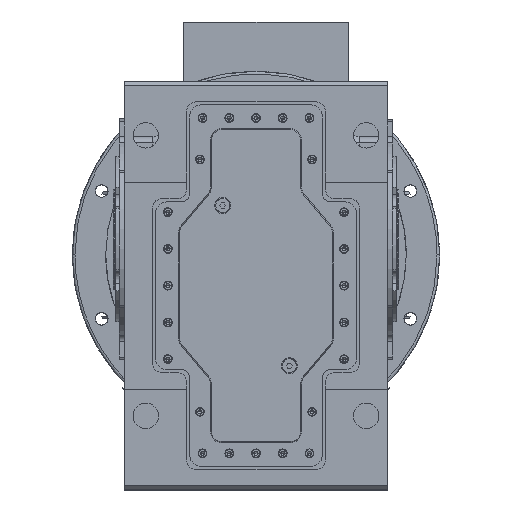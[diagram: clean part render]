
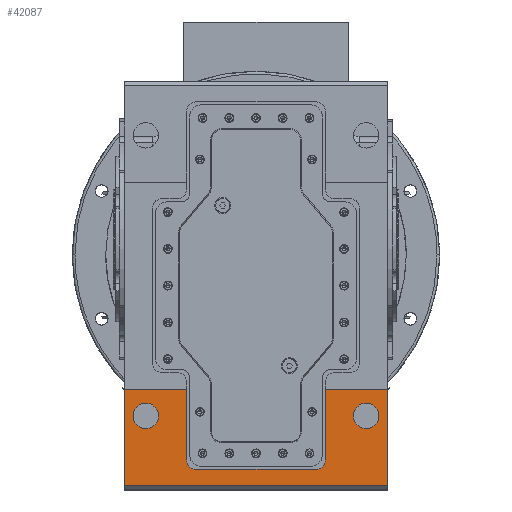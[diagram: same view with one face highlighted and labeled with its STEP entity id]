
A CAD part, top view. The second image highlights one B-rep face of the part: STEP entity #42087.
In plain terms, the highlighted planar face has unit normal (0, 0, 1).
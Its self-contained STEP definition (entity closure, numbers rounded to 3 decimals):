
#6207 = CARTESIAN_POINT ( 'NONE',  ( -200., -202.5, 687. ) ) ;
#6230 = PLANE ( 'NONE',  #15881 ) ;
#6234 = DIRECTION ( 'NONE',  ( 0., 0., 1. ) ) ;
#6236 = DIRECTION ( 'NONE',  ( 1., 0., 0. ) ) ;
#6562 = EDGE_LOOP ( 'NONE', ( #58204, #58196 ) ) ;
#6581 = EDGE_LOOP ( 'NONE', ( #58240, #58277 ) ) ;
#6672 = EDGE_LOOP ( 'NONE', ( #58254, #58187, #58305, #58239, #58245, #58227, #58211, #58214, #58260, #58191 ) ) ;
#8461 = FACE_BOUND ( 'NONE', #6581, .T. ) ;
#8471 = FACE_OUTER_BOUND ( 'NONE', #6672, .T. ) ;
#8513 = FACE_BOUND ( 'NONE', #6562, .T. ) ;
#15881 = AXIS2_PLACEMENT_3D ( 'NONE', #6207, #6234, #6236 ) ;
#19435 = CARTESIAN_POINT ( 'NONE',  ( 146., -242.5, 687. ) ) ;
#19439 = CARTESIAN_POINT ( 'NONE',  ( 184., -242.5, 687. ) ) ;
#19451 = CARTESIAN_POINT ( 'NONE',  ( -184., -242.5, 687. ) ) ;
#19477 = CARTESIAN_POINT ( 'NONE',  ( -146., -242.5, 687. ) ) ;
#22533 = CARTESIAN_POINT ( 'NONE',  ( 104., -202.5, 687. ) ) ;
#22566 = CARTESIAN_POINT ( 'NONE',  ( 104., -308.5, 687. ) ) ;
#22690 = CARTESIAN_POINT ( 'NONE',  ( 90., -322.5, 687. ) ) ;
#22762 = CARTESIAN_POINT ( 'NONE',  ( -104., -308.5, 687. ) ) ;
#22777 = CARTESIAN_POINT ( 'NONE',  ( -104., -202.5, 687. ) ) ;
#22822 = CARTESIAN_POINT ( 'NONE',  ( -90., -322.5, 687. ) ) ;
#27662 = AXIS2_PLACEMENT_3D ( 'NONE', #30590, #30605, #30607 ) ;
#27669 = AXIS2_PLACEMENT_3D ( 'NONE', #31965, #31907, #31959 ) ;
#28537 = CIRCLE ( 'NONE', #27662, 19. ) ;
#28596 = CIRCLE ( 'NONE', #27669, 19. ) ;
#30590 = CARTESIAN_POINT ( 'NONE',  ( -165., -242.5, 687. ) ) ;
#30605 = DIRECTION ( 'NONE',  ( 0., 0., -1. ) ) ;
#30607 = DIRECTION ( 'NONE',  ( 1., 0., 0. ) ) ;
#31907 = DIRECTION ( 'NONE',  ( 0., 0., -1. ) ) ;
#31959 = DIRECTION ( 'NONE',  ( 1., 0., 0. ) ) ;
#31965 = CARTESIAN_POINT ( 'NONE',  ( 165., -242.5, 687. ) ) ;
#42087 = ADVANCED_FACE ( 'NONE', ( #8471, #8513, #8461 ), #6230, .T. ) ;
#43046 = VERTEX_POINT ( 'NONE', #22566 ) ;
#44799 = VERTEX_POINT ( 'NONE', #22533 ) ;
#45875 = VERTEX_POINT ( 'NONE', #22690 ) ;
#45876 = VERTEX_POINT ( 'NONE', #22762 ) ;
#45913 = VERTEX_POINT ( 'NONE', #22777 ) ;
#45915 = VERTEX_POINT ( 'NONE', #22822 ) ;
#49197 = CARTESIAN_POINT ( 'NONE',  ( 197.5, -346.5, 687. ) ) ;
#49226 = CARTESIAN_POINT ( 'NONE',  ( -197.5, -346.5, 687. ) ) ;
#49254 = CARTESIAN_POINT ( 'NONE',  ( 197.5, -202.5, 687. ) ) ;
#49380 = CARTESIAN_POINT ( 'NONE',  ( -197.5, -202.5, 687. ) ) ;
#51356 = CIRCLE ( 'NONE', #89130, 14. ) ;
#51742 = LINE ( 'NONE', #77206, #51752 ) ;
#51750 = LINE ( 'NONE', #77223, #52042 ) ;
#51752 = VECTOR ( 'NONE', #77154, 1000. ) ;
#52042 = VECTOR ( 'NONE', #77308, 1000. ) ;
#58187 = ORIENTED_EDGE ( 'NONE', *, *, #111992, .T. ) ;
#58191 = ORIENTED_EDGE ( 'NONE', *, *, #112166, .T. ) ;
#58196 = ORIENTED_EDGE ( 'NONE', *, *, #112513, .T. ) ;
#58204 = ORIENTED_EDGE ( 'NONE', *, *, #87517, .T. ) ;
#58211 = ORIENTED_EDGE ( 'NONE', *, *, #113199, .T. ) ;
#58214 = ORIENTED_EDGE ( 'NONE', *, *, #112020, .T. ) ;
#58227 = ORIENTED_EDGE ( 'NONE', *, *, #113134, .F. ) ;
#58239 = ORIENTED_EDGE ( 'NONE', *, *, #113043, .F. ) ;
#58240 = ORIENTED_EDGE ( 'NONE', *, *, #87478, .T. ) ;
#58245 = ORIENTED_EDGE ( 'NONE', *, *, #112954, .T. ) ;
#58254 = ORIENTED_EDGE ( 'NONE', *, *, #112123, .T. ) ;
#58260 = ORIENTED_EDGE ( 'NONE', *, *, #112016, .T. ) ;
#58277 = ORIENTED_EDGE ( 'NONE', *, *, #112065, .T. ) ;
#58305 = ORIENTED_EDGE ( 'NONE', *, *, #112527, .T. ) ;
#72790 = VERTEX_POINT ( 'NONE', #19439 ) ;
#72792 = VERTEX_POINT ( 'NONE', #19435 ) ;
#72829 = VERTEX_POINT ( 'NONE', #19451 ) ;
#72889 = VERTEX_POINT ( 'NONE', #19477 ) ;
#75877 = CARTESIAN_POINT ( 'NONE',  ( -200., -322.5, 687. ) ) ;
#75885 = DIRECTION ( 'NONE',  ( -1., 0., 0. ) ) ;
#77154 = DIRECTION ( 'NONE',  ( 0., 1., 0. ) ) ;
#77206 = CARTESIAN_POINT ( 'NONE',  ( -104., -202.5, 687. ) ) ;
#77223 = CARTESIAN_POINT ( 'NONE',  ( 104., -202.5, 687. ) ) ;
#77244 = DIRECTION ( 'NONE',  ( 0., 0., -1. ) ) ;
#77277 = CARTESIAN_POINT ( 'NONE',  ( 90., -308.5, 687. ) ) ;
#77308 = DIRECTION ( 'NONE',  ( 0., -1., 0. ) ) ;
#77312 = DIRECTION ( 'NONE',  ( 1., 0., 0. ) ) ;
#77383 = CARTESIAN_POINT ( 'NONE',  ( -165., -242.5, 687. ) ) ;
#77395 = DIRECTION ( 'NONE',  ( 0., 0., -1. ) ) ;
#77414 = DIRECTION ( 'NONE',  ( 1., 0., 0. ) ) ;
#77584 = DIRECTION ( 'NONE',  ( 0., 0., -1. ) ) ;
#77588 = CARTESIAN_POINT ( 'NONE',  ( -90., -308.5, 687. ) ) ;
#77592 = DIRECTION ( 'NONE',  ( 1., 0., 0. ) ) ;
#77675 = LINE ( 'NONE', #80866, #77703 ) ;
#77703 = VECTOR ( 'NONE', #80883, 1000. ) ;
#77761 = CIRCLE ( 'NONE', #85779, 19. ) ;
#78201 = VECTOR ( 'NONE', #80226, 1000. ) ;
#78225 = LINE ( 'NONE', #80225, #78201 ) ;
#78291 = LINE ( 'NONE', #81572, #78309 ) ;
#78309 = VECTOR ( 'NONE', #81651, 1000. ) ;
#78408 = VECTOR ( 'NONE', #81812, 1000. ) ;
#78472 = LINE ( 'NONE', #81776, #78518 ) ;
#78478 = LINE ( 'NONE', #81843, #78408 ) ;
#78518 = VECTOR ( 'NONE', #81789, 1000. ) ;
#79485 = CIRCLE ( 'NONE', #89149, 19. ) ;
#79517 = CIRCLE ( 'NONE', #89369, 14. ) ;
#79587 = VECTOR ( 'NONE', #75885, 1000. ) ;
#79591 = LINE ( 'NONE', #75877, #79587 ) ;
#80225 = CARTESIAN_POINT ( 'NONE',  ( -200., -346.5, 687. ) ) ;
#80226 = DIRECTION ( 'NONE',  ( 1., 0., 0. ) ) ;
#80866 = CARTESIAN_POINT ( 'NONE',  ( -200., -202.5, 687. ) ) ;
#80880 = CARTESIAN_POINT ( 'NONE',  ( 165., -242.5, 687. ) ) ;
#80881 = DIRECTION ( 'NONE',  ( 0., 0., -1. ) ) ;
#80883 = DIRECTION ( 'NONE',  ( -1., 0., 0. ) ) ;
#80898 = DIRECTION ( 'NONE',  ( 1., 0., 0. ) ) ;
#81572 = CARTESIAN_POINT ( 'NONE',  ( -197.5, 229.5, 687. ) ) ;
#81651 = DIRECTION ( 'NONE',  ( 0., 1., 0. ) ) ;
#81776 = CARTESIAN_POINT ( 'NONE',  ( 197.5, 229.5, 687. ) ) ;
#81789 = DIRECTION ( 'NONE',  ( 0., -1., 0. ) ) ;
#81812 = DIRECTION ( 'NONE',  ( -1., 0., 0. ) ) ;
#81843 = CARTESIAN_POINT ( 'NONE',  ( -200., -202.5, 687. ) ) ;
#85779 = AXIS2_PLACEMENT_3D ( 'NONE', #80880, #80881, #80898 ) ;
#87478 = EDGE_CURVE ( 'NONE', #72889, #72829, #28537, .T. ) ;
#87517 = EDGE_CURVE ( 'NONE', #72790, #72792, #28596, .T. ) ;
#89130 = AXIS2_PLACEMENT_3D ( 'NONE', #77277, #77244, #77312 ) ;
#89149 = AXIS2_PLACEMENT_3D ( 'NONE', #77383, #77395, #77414 ) ;
#89369 = AXIS2_PLACEMENT_3D ( 'NONE', #77588, #77584, #77592 ) ;
#103200 = VERTEX_POINT ( 'NONE', #49254 ) ;
#103201 = VERTEX_POINT ( 'NONE', #49197 ) ;
#103207 = VERTEX_POINT ( 'NONE', #49226 ) ;
#103334 = VERTEX_POINT ( 'NONE', #49380 ) ;
#111992 = EDGE_CURVE ( 'NONE', #45876, #45913, #51742, .T. ) ;
#112016 = EDGE_CURVE ( 'NONE', #43046, #45875, #51356, .T. ) ;
#112020 = EDGE_CURVE ( 'NONE', #44799, #43046, #51750, .T. ) ;
#112065 = EDGE_CURVE ( 'NONE', #72829, #72889, #79485, .T. ) ;
#112123 = EDGE_CURVE ( 'NONE', #45915, #45876, #79517, .T. ) ;
#112166 = EDGE_CURVE ( 'NONE', #45875, #45915, #79591, .T. ) ;
#112513 = EDGE_CURVE ( 'NONE', #72792, #72790, #77761, .T. ) ;
#112527 = EDGE_CURVE ( 'NONE', #45913, #103334, #77675, .T. ) ;
#112954 = EDGE_CURVE ( 'NONE', #103207, #103201, #78225, .T. ) ;
#113043 = EDGE_CURVE ( 'NONE', #103207, #103334, #78291, .T. ) ;
#113134 = EDGE_CURVE ( 'NONE', #103200, #103201, #78472, .T. ) ;
#113199 = EDGE_CURVE ( 'NONE', #103200, #44799, #78478, .T. ) ;
